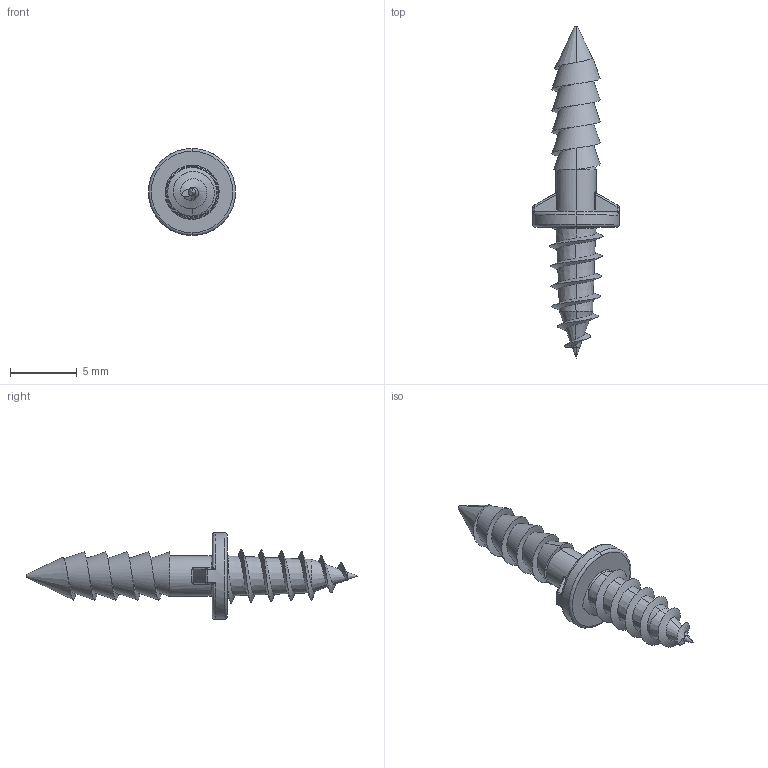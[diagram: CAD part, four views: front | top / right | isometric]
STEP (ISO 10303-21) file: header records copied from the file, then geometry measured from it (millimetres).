
FILE_DESCRIPTION (( 'STEP AP203' ), '1' );
FILE_NAME ('12.20.040-1 DB pointed steel nail_screw.STEP', '2020-12-15T08:52:07', ( '' ), ( '' ), 'SwSTEP 2.0', 'SolidWorks 2019', '' );
FILE_SCHEMA (( 'CONFIG_CONTROL_DESIGN' ));
Length unit declared in the file: millimetre
Products named in the file (1): 12.20.040-1 DB pointed steel nail_screw
Bounding box: 6.5 x 24.8 x 6.5 mm (x, y, z)
Volume: 176.8 mm3; surface area: 342.1 mm2
Topology: 1 solids, 1 shells, 96 faces, 240 edges, 137 vertices
Faces by surface type: bspline 27, cone 23, cylinder 16, torus 15, plane 11, sphere 4
Entity records: 5236 total; most frequent: CARTESIAN_POINT 3181, ORIENTED_EDGE 460, DIRECTION 360, EDGE_CURVE 230, AXIS2_PLACEMENT_3D 155, VERTEX_POINT 137, EDGE_LOOP 97, ADVANCED_FACE 96
